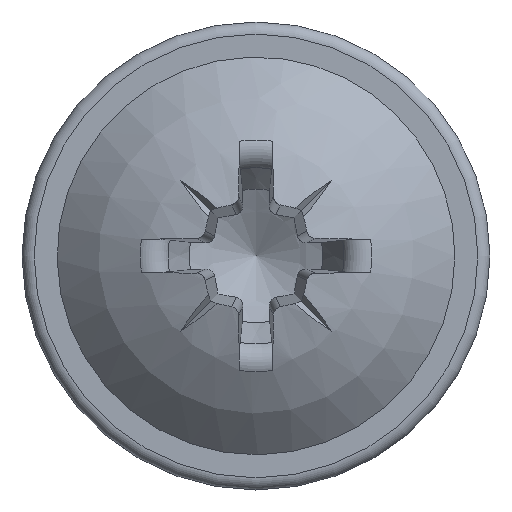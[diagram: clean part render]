
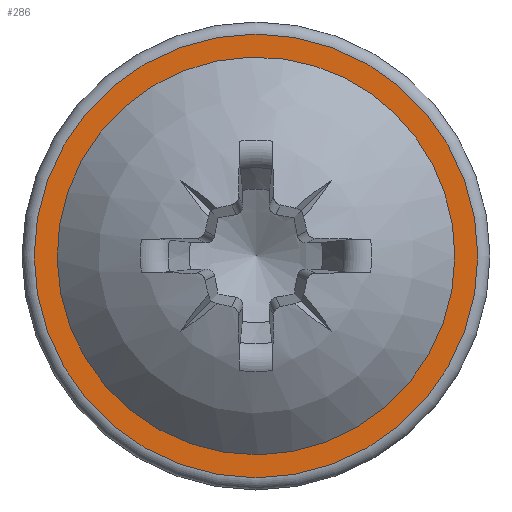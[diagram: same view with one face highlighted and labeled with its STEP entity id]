
A CAD part, top view. The second image highlights one B-rep face of the part: STEP entity #286.
In plain terms, the highlighted planar face has unit normal (0, 0, 1).
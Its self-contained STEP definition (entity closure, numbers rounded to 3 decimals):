
#78=PLANE('',#1610);
#260=FACE_BOUND('',#482,.T.);
#261=FACE_BOUND('',#483,.T.);
#286=ADVANCED_FACE('',(#260,#261),#78,.F.);
#482=EDGE_LOOP('',(#704));
#483=EDGE_LOOP('',(#705));
#576=CIRCLE('',#1568,5.738);
#611=CIRCLE('',#1609,6.4);
#704=ORIENTED_EDGE('',*,*,#1300,.T.);
#705=ORIENTED_EDGE('',*,*,#1249,.F.);
#1102=VERTEX_POINT('',#2813);
#1151=VERTEX_POINT('',#3117);
#1249=EDGE_CURVE('',#1102,#1102,#576,.T.);
#1300=EDGE_CURVE('',#1151,#1151,#611,.T.);
#1568=AXIS2_PLACEMENT_3D('',#2812,#1679,#1680);
#1609=AXIS2_PLACEMENT_3D('',#3116,#1762,#1763);
#1610=AXIS2_PLACEMENT_3D('',#3118,#1764,#1765);
#1679=DIRECTION('',(0.,0.,1.));
#1680=DIRECTION('',(1.,0.,0.));
#1762=DIRECTION('',(0.,0.,1.));
#1763=DIRECTION('',(-1.,0.,0.));
#1764=DIRECTION('',(0.,0.,-1.));
#1765=DIRECTION('',(-1.,0.,0.));
#2812=CARTESIAN_POINT('',(0.,0.,1.4));
#2813=CARTESIAN_POINT('',(5.738,0.,1.4));
#3116=CARTESIAN_POINT('',(0.,0.,1.4));
#3117=CARTESIAN_POINT('',(-6.4,0.,1.4));
#3118=CARTESIAN_POINT('',(0.,6.75,1.4));
